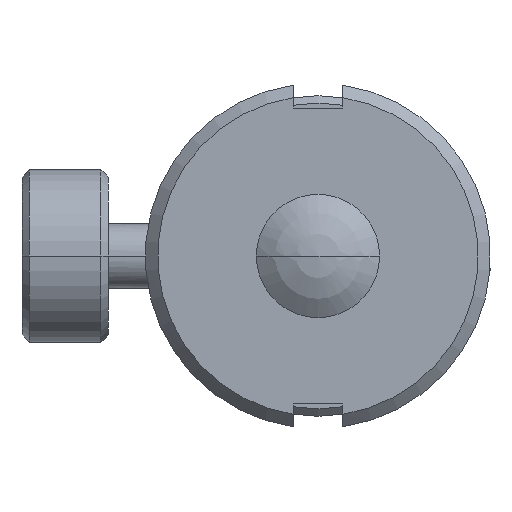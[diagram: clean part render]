
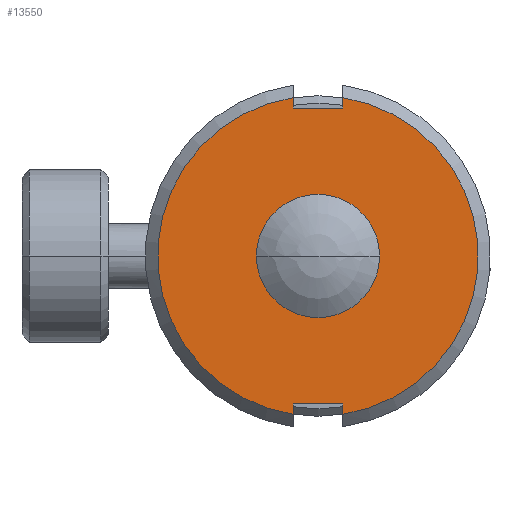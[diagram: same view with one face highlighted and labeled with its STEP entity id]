
A CAD part, left-side view. The second image highlights one B-rep face of the part: STEP entity #13550.
In plain terms, the highlighted planar face has unit normal (-1, 0, 0).
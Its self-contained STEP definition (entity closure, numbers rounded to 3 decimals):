
#12480=CARTESIAN_POINT('',(27.65,122.631,-6.423));
#12490=VERTEX_POINT('',#12480);
#12680=CARTESIAN_POINT('',(27.65,122.631,6.423));
#12690=VERTEX_POINT('',#12680);
#12720=CARTESIAN_POINT('',(27.65,121.631,0.));
#12730=DIRECTION('',(-1.,0.,0.));
#12740=DIRECTION('',(0.,1.,0.));
#12750=AXIS2_PLACEMENT_3D('',#12720,#12730,#12740);
#12760=CIRCLE('',#12750,6.5);
#12770=EDGE_CURVE('',#12690,#12490,#12760,.T.);
#12820=CARTESIAN_POINT('',(27.65,126.131,0.));
#12830=DIRECTION('',(-1.,0.,0.));
#12840=DIRECTION('',(0.,1.,0.));
#12850=AXIS2_PLACEMENT_3D('',#12820,#12830,#12840);
#12860=PLANE('',#12850);
#12870=CARTESIAN_POINT('',(27.65,121.631,0.));
#12880=DIRECTION('',(-1.,0.,0.));
#12890=DIRECTION('',(0.,1.,0.));
#12900=AXIS2_PLACEMENT_3D('',#12870,#12880,#12890);
#12910=CIRCLE('',#12900,2.5);
#12920=CARTESIAN_POINT('',(27.65,124.131,0.)
);
#12930=VERTEX_POINT('',#12920);
#12940=CARTESIAN_POINT('',(27.65,119.131,0.));
#12950=VERTEX_POINT('',#12940);
#12960=EDGE_CURVE('',#12930,#12950,#12910,.T.);
#12970=ORIENTED_EDGE('',*,*,#12960,.F.);
#12980=EDGE_CURVE('',#12950,#12930,#12910,.T.);
#12990=ORIENTED_EDGE('',*,*,#12980,.F.);
#13000=EDGE_LOOP('',(#12990,#12970));
#13010=FACE_BOUND('',#13000,.T.);
#13020=CARTESIAN_POINT('',(27.65,122.631,0.));
#13030=DIRECTION('',(0.,0.,1.));
#13040=VECTOR('',#13030,1.);
#13050=LINE('',#13020,#13040);
#13060=CARTESIAN_POINT('',(27.65,122.631,6.));
#13070=VERTEX_POINT('',#13060);
#13080=EDGE_CURVE('',#13070,#12690,#13050,.T.);
#13090=ORIENTED_EDGE('',*,*,#13080,.T.);
#13100=CARTESIAN_POINT('',(27.65,0.,6.));
#13110=DIRECTION('',(0.,1.,0.));
#13120=VECTOR('',#13110,1.);
#13130=LINE('',#13100,#13120);
#13140=CARTESIAN_POINT('',(27.65,120.631,6.));
#13150=VERTEX_POINT('',#13140);
#13160=EDGE_CURVE('',#13150,#13070,#13130,.T.);
#13170=ORIENTED_EDGE('',*,*,#13160,.T.);
#13180=CARTESIAN_POINT('',(27.65,120.631,0.));
#13190=DIRECTION('',(0.,0.,-1.));
#13200=VECTOR('',#13190,1.);
#13210=LINE('',#13180,#13200);
#13220=CARTESIAN_POINT('',(27.65,120.631,6.423));
#13230=VERTEX_POINT('',#13220);
#13240=EDGE_CURVE('',#13230,#13150,#13210,.T.);
#13250=ORIENTED_EDGE('',*,*,#13240,.T.);
#13260=CARTESIAN_POINT('',(27.65,120.631,-6.423));
#13270=VERTEX_POINT('',#13260);
#13280=EDGE_CURVE('',#13270,#13230,#12760,.T.);
#13290=ORIENTED_EDGE('',*,*,#13280,.T.);
#13300=CARTESIAN_POINT('',(27.65,120.631,0.));
#13310=DIRECTION('',(0.,0.,-1.));
#13320=VECTOR('',#13310,1.);
#13330=LINE('',#13300,#13320);
#13340=CARTESIAN_POINT('',(27.65,120.631,-6.));
#13350=VERTEX_POINT('',#13340);
#13360=EDGE_CURVE('',#13350,#13270,#13330,.T.);
#13370=ORIENTED_EDGE('',*,*,#13360,.T.);
#13380=CARTESIAN_POINT('',(27.65,0.,-6.));
#13390=DIRECTION('',(0.,-1.,0.));
#13400=VECTOR('',#13390,1.);
#13410=LINE('',#13380,#13400);
#13420=CARTESIAN_POINT('',(27.65,122.631,-6.));
#13430=VERTEX_POINT('',#13420);
#13440=EDGE_CURVE('',#13430,#13350,#13410,.T.);
#13450=ORIENTED_EDGE('',*,*,#13440,.T.);
#13460=CARTESIAN_POINT('',(27.65,122.631,0.));
#13470=DIRECTION('',(0.,0.,1.));
#13480=VECTOR('',#13470,1.);
#13490=LINE('',#13460,#13480);
#13500=EDGE_CURVE('',#12490,#13430,#13490,.T.);
#13510=ORIENTED_EDGE('',*,*,#13500,.T.);
#13520=ORIENTED_EDGE('',*,*,#12770,.T.);
#13530=EDGE_LOOP('',(#13520,#13510,#13450,#13370,#13290,#13250,#13170,
#13090));
#13540=FACE_OUTER_BOUND('',#13530,.T.);
#13550=ADVANCED_FACE('',(#13010,#13540),#12860,.T.);
